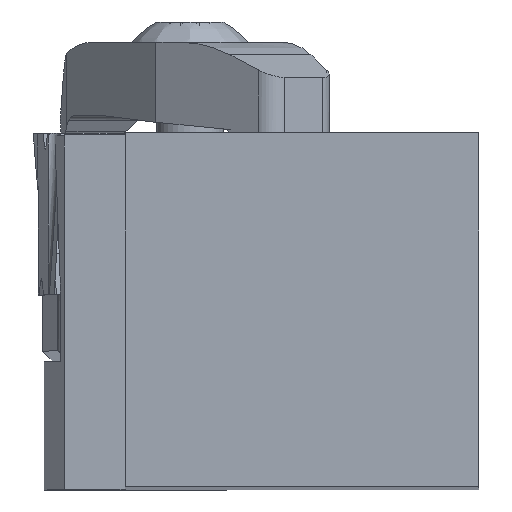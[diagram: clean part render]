
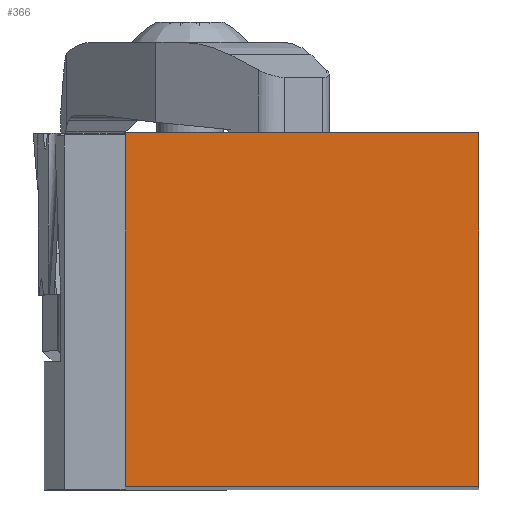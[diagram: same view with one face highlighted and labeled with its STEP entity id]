
A CAD part, top view. The second image highlights one B-rep face of the part: STEP entity #366.
In plain terms, the highlighted planar face has unit normal (0, 0, 1).
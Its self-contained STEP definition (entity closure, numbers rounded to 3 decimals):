
#366=ADVANCED_FACE('',(#626),#535,.F.);
#535=PLANE('',#3185);
#626=FACE_OUTER_BOUND('',#777,.T.);
#777=EDGE_LOOP('',(#991,#992,#993,#994));
#991=ORIENTED_EDGE('',*,*,#2159,.T.);
#992=ORIENTED_EDGE('',*,*,#2155,.F.);
#993=ORIENTED_EDGE('',*,*,#2176,.F.);
#994=ORIENTED_EDGE('',*,*,#2177,.T.);
#1853=VERTEX_POINT('',#4436);
#1854=VERTEX_POINT('',#4438);
#1857=VERTEX_POINT('',#4446);
#1868=VERTEX_POINT('',#4478);
#2155=EDGE_CURVE('',#1853,#1854,#2600,.T.);
#2159=EDGE_CURVE('',#1857,#1854,#2604,.T.);
#2176=EDGE_CURVE('',#1868,#1853,#2621,.T.);
#2177=EDGE_CURVE('',#1868,#1857,#2622,.T.);
#2600=LINE('',#4437,#2873);
#2604=LINE('',#4445,#2877);
#2621=LINE('',#4477,#2894);
#2622=LINE('',#4479,#2895);
#2873=VECTOR('',#3513,1.);
#2877=VECTOR('',#3519,1.);
#2894=VECTOR('',#3544,1.);
#2895=VECTOR('',#3545,1.);
#3185=AXIS2_PLACEMENT_3D('',#4480,#3546,#3547);
#3513=DIRECTION('',(0.,-1.,0.));
#3519=DIRECTION('',(1.,0.,0.));
#3544=DIRECTION('',(1.,0.,0.));
#3545=DIRECTION('',(0.,-1.,0.));
#3546=DIRECTION('',(0.,0.,-1.));
#3547=DIRECTION('',(-1.,0.,0.));
#4436=CARTESIAN_POINT('',(0.,25.21,0.));
#4437=CARTESIAN_POINT('',(0.,25.21,0.));
#4438=CARTESIAN_POINT('',(0.,0.,0.));
#4445=CARTESIAN_POINT('',(-25.21,0.,0.));
#4446=CARTESIAN_POINT('',(-25.21,0.,0.));
#4477=CARTESIAN_POINT('',(-25.21,25.21,0.));
#4478=CARTESIAN_POINT('',(-25.21,25.21,0.));
#4479=CARTESIAN_POINT('',(-25.21,25.21,0.));
#4480=CARTESIAN_POINT('',(-25.21,25.21,0.));
